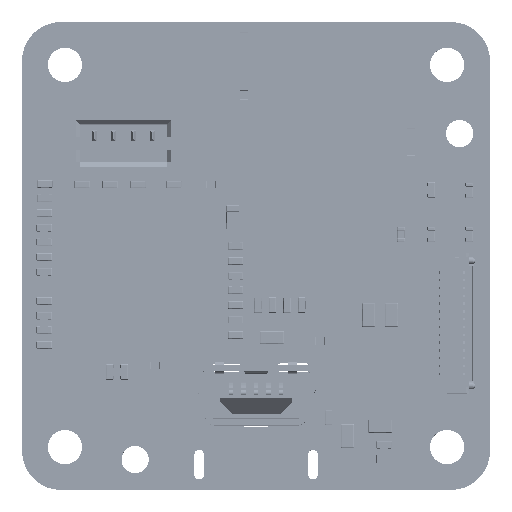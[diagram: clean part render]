
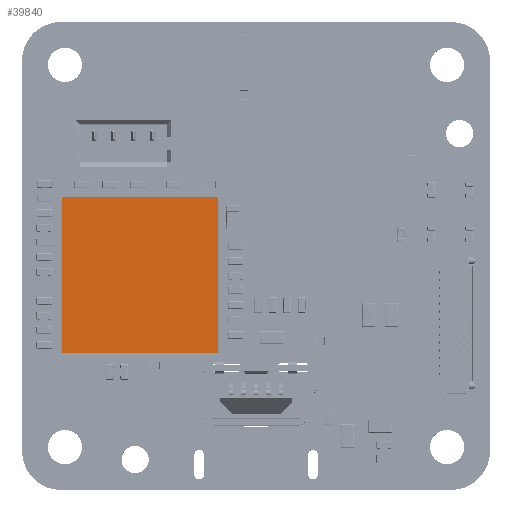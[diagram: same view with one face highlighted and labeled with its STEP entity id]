
A CAD part, top view. The second image highlights one B-rep face of the part: STEP entity #39840.
In plain terms, the highlighted planar face has unit normal (0, 0, 1).
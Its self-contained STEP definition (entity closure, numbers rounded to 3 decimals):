
#39711 = VERTEX_POINT('',#39712);
#39712 = CARTESIAN_POINT('',(5.,-5.,1.2));
#39718 = EDGE_CURVE('',#39711,#39719,#39721,.T.);
#39719 = VERTEX_POINT('',#39720);
#39720 = CARTESIAN_POINT('',(5.,5.,1.2));
#39721 = LINE('',#39722,#39723);
#39722 = CARTESIAN_POINT('',(5.,-5.,1.2));
#39723 = VECTOR('',#39724,1.);
#39724 = DIRECTION('',(0.,1.,0.));
#39749 = EDGE_CURVE('',#39719,#39750,#39752,.T.);
#39750 = VERTEX_POINT('',#39751);
#39751 = CARTESIAN_POINT('',(-5.,5.,1.2));
#39752 = LINE('',#39753,#39754);
#39753 = CARTESIAN_POINT('',(5.,5.,1.2));
#39754 = VECTOR('',#39755,1.);
#39755 = DIRECTION('',(-1.,0.,0.));
#39780 = EDGE_CURVE('',#39750,#39781,#39783,.T.);
#39781 = VERTEX_POINT('',#39782);
#39782 = CARTESIAN_POINT('',(-5.,-5.,1.2));
#39783 = LINE('',#39784,#39785);
#39784 = CARTESIAN_POINT('',(-5.,5.,1.2));
#39785 = VECTOR('',#39786,1.);
#39786 = DIRECTION('',(0.,-1.,0.));
#39811 = EDGE_CURVE('',#39781,#39711,#39812,.T.);
#39812 = LINE('',#39813,#39814);
#39813 = CARTESIAN_POINT('',(-5.,-5.,1.2));
#39814 = VECTOR('',#39815,1.);
#39815 = DIRECTION('',(1.,0.,0.));
#39840 = ADVANCED_FACE('',(#39841),#39847,.F.);
#39841 = FACE_BOUND('',#39842,.T.);
#39842 = EDGE_LOOP('',(#39843,#39844,#39845,#39846));
#39843 = ORIENTED_EDGE('',*,*,#39718,.T.);
#39844 = ORIENTED_EDGE('',*,*,#39749,.T.);
#39845 = ORIENTED_EDGE('',*,*,#39780,.T.);
#39846 = ORIENTED_EDGE('',*,*,#39811,.T.);
#39847 = PLANE('',#39848);
#39848 = AXIS2_PLACEMENT_3D('',#39849,#39850,#39851);
#39849 = CARTESIAN_POINT('',(5.,-5.,1.2));
#39850 = DIRECTION('',(0.,0.,-1.));
#39851 = DIRECTION('',(-1.,0.,0.));
